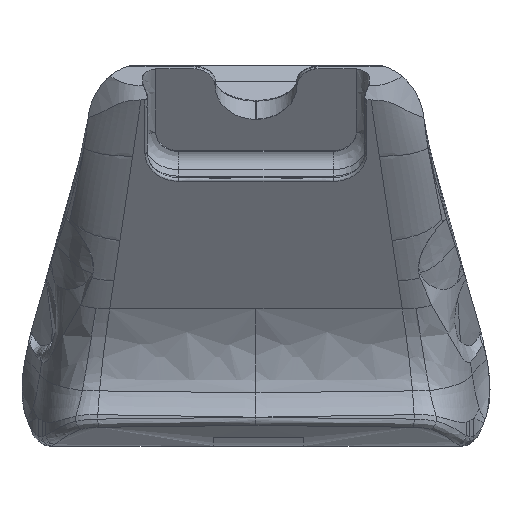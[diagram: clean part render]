
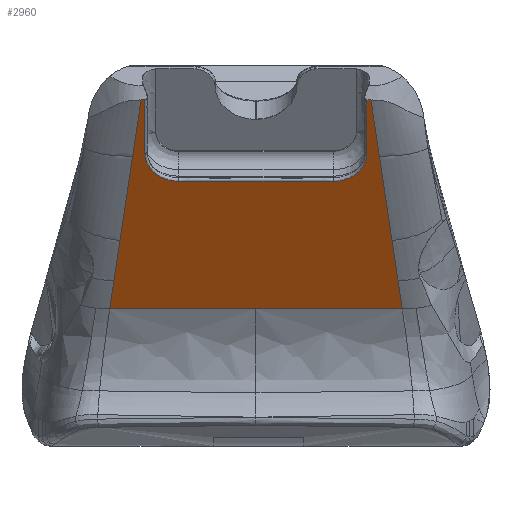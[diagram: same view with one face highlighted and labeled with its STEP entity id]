
A CAD part, top view. The second image highlights one B-rep face of the part: STEP entity #2960.
In plain terms, the highlighted planar face has unit normal (0, -0.574, 0.819).
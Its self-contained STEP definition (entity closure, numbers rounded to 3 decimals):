
#57=PLANE('',#3044);
#274=FACE_OUTER_BOUND('',#441,.T.);
#441=EDGE_LOOP('',(#2592,#2593,#2594,#2595,#2596,#2597,#2598,#2599,#2600,
#2601,#2602,#2603,#2604,#2605,#2606,#2607,#2608));
#493=LINE('',#9223,#583);
#503=LINE('',#20795,#593);
#506=LINE('',#21315,#596);
#507=LINE('',#21988,#597);
#512=LINE('',#22668,#602);
#514=LINE('',#23420,#604);
#515=LINE('',#24504,#605);
#516=LINE('',#25480,#606);
#517=LINE('',#26003,#607);
#519=LINE('',#26270,#609);
#583=VECTOR('',#3149,10.891);
#593=VECTOR('',#3177,10.);
#596=VECTOR('',#3194,7.582);
#597=VECTOR('',#3195,32.237);
#602=VECTOR('',#3200,10.891);
#604=VECTOR('',#3206,32.237);
#605=VECTOR('',#3217,10.);
#606=VECTOR('',#3218,10.);
#607=VECTOR('',#3219,10.);
#609=VECTOR('',#3223,7.582);
#912=B_SPLINE_CURVE_WITH_KNOTS('',3,(#20992,#20993,#20994,#20995),
 .UNSPECIFIED.,.F.,.F.,(4,4),(-1.799,-0.357),
 .UNSPECIFIED.);
#936=B_SPLINE_CURVE_WITH_KNOTS('',3,(#23480,#23481,#23482,#23483),
 .UNSPECIFIED.,.F.,.F.,(4,4),(-3.4,0.),.UNSPECIFIED.);
#941=B_SPLINE_CURVE_WITH_KNOTS('',3,(#26048,#26049,#26050,#26051,#26052,
#26053),.UNSPECIFIED.,.F.,.F.,(4,1,1,4),(-1.173,-0.838,
-0.503,0.),.UNSPECIFIED.);
#944=B_SPLINE_CURVE_WITH_KNOTS('',3,(#26422,#26423,#26424,#26425,#26426,
#26427),.UNSPECIFIED.,.F.,.F.,(4,2,4),(-0.62,-0.566,
-0.322),.UNSPECIFIED.);
#946=B_SPLINE_CURVE_WITH_KNOTS('',3,(#26481,#26482,#26483,#26484,#26485,
#26486),.UNSPECIFIED.,.F.,.F.,(4,1,1,4),(-1.173,-0.838,
-0.503,0.),.UNSPECIFIED.);
#962=B_SPLINE_CURVE_WITH_KNOTS('',3,(#26946,#26947,#26948,#26949,#26950,
#26951),.UNSPECIFIED.,.F.,.F.,(4,2,4),(1.153,1.162,
1.216),.UNSPECIFIED.);
#964=B_SPLINE_CURVE_WITH_KNOTS('',3,(#26975,#26976,#26977,#26978),
 .UNSPECIFIED.,.F.,.F.,(4,4),(-1.442,0.),
 .UNSPECIFIED.);
#1141=VERTEX_POINT('',#9205);
#1142=VERTEX_POINT('',#9222);
#1194=VERTEX_POINT('',#19657);
#1200=VERTEX_POINT('',#20756);
#1201=VERTEX_POINT('',#20794);
#1210=VERTEX_POINT('',#20964);
#1213=VERTEX_POINT('',#20990);
#1217=VERTEX_POINT('',#21298);
#1218=VERTEX_POINT('',#21916);
#1219=VERTEX_POINT('',#21987);
#1237=VERTEX_POINT('',#23477);
#1238=VERTEX_POINT('',#23479);
#1240=VERTEX_POINT('',#24465);
#1241=VERTEX_POINT('',#24503);
#1242=VERTEX_POINT('',#25469);
#1245=VERTEX_POINT('',#26479);
#1273=VERTEX_POINT('',#26945);
#1513=EDGE_CURVE('',#1142,#1141,#493,.T.);
#1613=EDGE_CURVE('',#1200,#1201,#503,.T.);
#1626=EDGE_CURVE('',#1213,#1210,#912,.T.);
#1634=EDGE_CURVE('',#1217,#1194,#506,.T.);
#1636=EDGE_CURVE('',#1218,#1219,#507,.T.);
#1653=EDGE_CURVE('',#1201,#1217,#512,.T.);
#1662=EDGE_CURVE('',#1218,#1194,#514,.T.);
#1667=EDGE_CURVE('',#1237,#1238,#936,.T.);
#1672=EDGE_CURVE('',#1241,#1240,#515,.T.);
#1675=EDGE_CURVE('',#1242,#1200,#516,.T.);
#1676=EDGE_CURVE('',#1240,#1142,#517,.T.);
#1678=EDGE_CURVE('',#1238,#1213,#941,.T.);
#1679=EDGE_CURVE('',#1141,#1219,#519,.T.);
#1682=EDGE_CURVE('',#1242,#1210,#944,.T.);
#1685=EDGE_CURVE('',#1245,#1237,#946,.T.);
#1727=EDGE_CURVE('',#1241,#1273,#962,.T.);
#1731=EDGE_CURVE('',#1273,#1245,#964,.T.);
#2592=ORIENTED_EDGE('',*,*,#1727,.F.);
#2593=ORIENTED_EDGE('',*,*,#1672,.T.);
#2594=ORIENTED_EDGE('',*,*,#1676,.T.);
#2595=ORIENTED_EDGE('',*,*,#1513,.T.);
#2596=ORIENTED_EDGE('',*,*,#1679,.T.);
#2597=ORIENTED_EDGE('',*,*,#1636,.F.);
#2598=ORIENTED_EDGE('',*,*,#1662,.T.);
#2599=ORIENTED_EDGE('',*,*,#1634,.F.);
#2600=ORIENTED_EDGE('',*,*,#1653,.F.);
#2601=ORIENTED_EDGE('',*,*,#1613,.F.);
#2602=ORIENTED_EDGE('',*,*,#1675,.F.);
#2603=ORIENTED_EDGE('',*,*,#1682,.T.);
#2604=ORIENTED_EDGE('',*,*,#1626,.F.);
#2605=ORIENTED_EDGE('',*,*,#1678,.F.);
#2606=ORIENTED_EDGE('',*,*,#1667,.F.);
#2607=ORIENTED_EDGE('',*,*,#1685,.F.);
#2608=ORIENTED_EDGE('',*,*,#1731,.F.);
#2960=ADVANCED_FACE('',(#274),#57,.T.);
#3044=AXIS2_PLACEMENT_3D('',#26974,#3275,#3276);
#3149=DIRECTION('',(-0.122,-0.813,-0.569));
#3177=DIRECTION('',(0.122,-0.813,-0.569));
#3194=DIRECTION('',(0.122,-0.813,-0.569));
#3195=DIRECTION('',(-1.,0.,0.));
#3200=DIRECTION('',(0.122,-0.813,-0.569));
#3206=DIRECTION('',(1.,0.,0.));
#3217=DIRECTION('',(-0.122,-0.813,-0.569));
#3218=DIRECTION('',(0.122,-0.813,-0.569));
#3219=DIRECTION('',(-0.122,-0.813,-0.569));
#3223=DIRECTION('',(-0.122,-0.813,-0.569));
#3275=DIRECTION('center_axis',(0.,-0.574,0.819));
#3276=DIRECTION('ref_axis',(0.,0.819,0.574));
#9205=CARTESIAN_POINT('',(-31.313,-27.694,33.24));
#9222=CARTESIAN_POINT('',(-29.986,-18.84,39.441));
#9223=CARTESIAN_POINT('',(-29.986,-18.84,39.441));
#19657=CARTESIAN_POINT('',(32.237,-33.859,28.924));
#20756=CARTESIAN_POINT('',(27.203,-0.273,52.441));
#20794=CARTESIAN_POINT('',(29.986,-18.84,39.441));
#20795=CARTESIAN_POINT('',(27.203,-0.273,52.441));
#20964=CARTESIAN_POINT('',(24.467,12.154,61.142));
#20990=CARTESIAN_POINT('',(24.467,0.341,52.871));
#20992=CARTESIAN_POINT('Ctrl Pts',(24.467,0.341,52.871));
#20993=CARTESIAN_POINT('Ctrl Pts',(24.467,4.279,55.628));
#20994=CARTESIAN_POINT('Ctrl Pts',(24.467,8.216,58.385));
#20995=CARTESIAN_POINT('Ctrl Pts',(24.467,12.154,61.142));
#21298=CARTESIAN_POINT('',(31.313,-27.694,33.24));
#21315=CARTESIAN_POINT('',(31.313,-27.694,33.24));
#21916=CARTESIAN_POINT('',(0.,-33.859,28.924));
#21987=CARTESIAN_POINT('',(-32.237,-33.859,28.924));
#21988=CARTESIAN_POINT('',(0.,-33.859,28.924));
#22668=CARTESIAN_POINT('',(29.986,-18.84,39.441));
#23420=CARTESIAN_POINT('',(0.,-33.859,28.924));
#23477=CARTESIAN_POINT('',(-17.,-5.776,48.588));
#23479=CARTESIAN_POINT('',(17.,-5.776,48.588));
#23480=CARTESIAN_POINT('Ctrl Pts',(-17.,-5.776,48.588));
#23481=CARTESIAN_POINT('Ctrl Pts',(-5.667,-5.776,
48.588));
#23482=CARTESIAN_POINT('Ctrl Pts',(5.667,-5.776,48.588));
#23483=CARTESIAN_POINT('Ctrl Pts',(17.,-5.776,48.588));
#24465=CARTESIAN_POINT('',(-27.203,-0.273,52.441));
#24503=CARTESIAN_POINT('',(-25.339,12.16,61.147));
#24504=CARTESIAN_POINT('',(-25.339,12.16,61.147));
#25469=CARTESIAN_POINT('',(25.339,12.16,61.147));
#25480=CARTESIAN_POINT('',(25.339,12.16,61.147));
#26003=CARTESIAN_POINT('',(-27.203,-0.273,52.441));
#26048=CARTESIAN_POINT('Ctrl Pts',(17.,-5.776,48.588));
#26049=CARTESIAN_POINT('Ctrl Pts',(18.117,-5.776,48.588));
#26050=CARTESIAN_POINT('Ctrl Pts',(20.347,-5.357,48.881));
#26051=CARTESIAN_POINT('Ctrl Pts',(23.488,-3.311,50.314));
#26052=CARTESIAN_POINT('Ctrl Pts',(24.467,-1.032,51.91));
#26053=CARTESIAN_POINT('Ctrl Pts',(24.467,0.341,52.871));
#26270=CARTESIAN_POINT('',(-31.313,-27.694,33.24));
#26422=CARTESIAN_POINT('Ctrl Pts',(25.339,12.16,61.147));
#26423=CARTESIAN_POINT('Ctrl Pts',(25.314,12.161,61.147));
#26424=CARTESIAN_POINT('Ctrl Pts',(25.289,12.161,61.148));
#26425=CARTESIAN_POINT('Ctrl Pts',(25.147,12.163,61.149));
#26426=CARTESIAN_POINT('Ctrl Pts',(25.036,12.161,61.148));
#26427=CARTESIAN_POINT('Ctrl Pts',(24.467,12.154,61.142));
#26479=CARTESIAN_POINT('',(-24.467,0.341,52.871));
#26481=CARTESIAN_POINT('Ctrl Pts',(-24.467,0.341,
52.871));
#26482=CARTESIAN_POINT('Ctrl Pts',(-24.467,-0.574,
52.23));
#26483=CARTESIAN_POINT('Ctrl Pts',(-23.956,-2.401,
50.951));
#26484=CARTESIAN_POINT('Ctrl Pts',(-21.458,-4.974,
49.15));
#26485=CARTESIAN_POINT('Ctrl Pts',(-18.676,-5.776,
48.588));
#26486=CARTESIAN_POINT('Ctrl Pts',(-17.,-5.776,48.588));
#26945=CARTESIAN_POINT('',(-24.467,12.154,61.142));
#26946=CARTESIAN_POINT('Ctrl Pts',(-25.339,12.16,61.147));
#26947=CARTESIAN_POINT('Ctrl Pts',(-25.319,12.161,61.147));
#26948=CARTESIAN_POINT('Ctrl Pts',(-25.298,12.161,61.148));
#26949=CARTESIAN_POINT('Ctrl Pts',(-25.158,12.163,61.149));
#26950=CARTESIAN_POINT('Ctrl Pts',(-25.044,12.161,61.148));
#26951=CARTESIAN_POINT('Ctrl Pts',(-24.467,12.154,61.142));
#26974=CARTESIAN_POINT('Origin',(0.,-33.859,28.924));
#26975=CARTESIAN_POINT('Ctrl Pts',(-24.467,12.154,61.142));
#26976=CARTESIAN_POINT('Ctrl Pts',(-24.467,8.216,58.385));
#26977=CARTESIAN_POINT('Ctrl Pts',(-24.467,4.279,55.628));
#26978=CARTESIAN_POINT('Ctrl Pts',(-24.467,0.341,
52.871));
